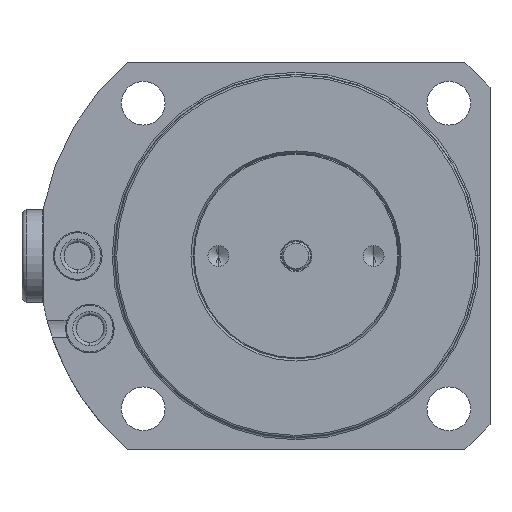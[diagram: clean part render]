
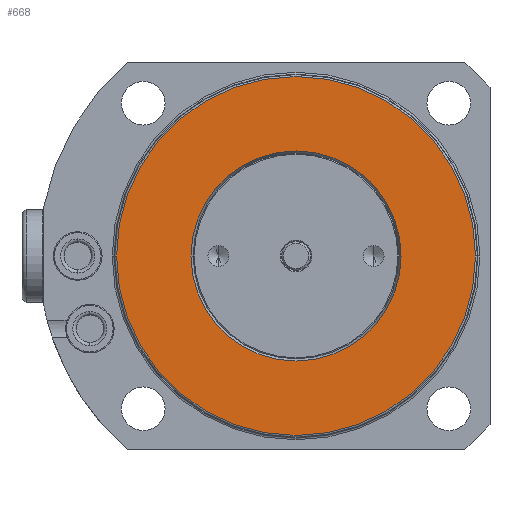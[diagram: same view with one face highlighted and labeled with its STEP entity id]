
A CAD part, front view. The second image highlights one B-rep face of the part: STEP entity #668.
In plain terms, the highlighted planar face has unit normal (0, -1, 0).
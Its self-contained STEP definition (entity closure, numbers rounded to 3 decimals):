
#345=PLANE('',#4007);
#409=FACE_BOUND('',#1174,.T.);
#410=FACE_BOUND('',#1175,.T.);
#668=ADVANCED_FACE('',(#409,#410),#345,.T.);
#1174=EDGE_LOOP('',(#2089,#2090));
#1175=EDGE_LOOP('',(#2091,#2092));
#2089=ORIENTED_EDGE('',*,*,#3178,.T.);
#2090=ORIENTED_EDGE('',*,*,#3251,.T.);
#2091=ORIENTED_EDGE('',*,*,#3173,.F.);
#2092=ORIENTED_EDGE('',*,*,#3252,.F.);
#2812=VERTEX_POINT('',#6266);
#2813=VERTEX_POINT('',#6267);
#2816=VERTEX_POINT('',#6275);
#2817=VERTEX_POINT('',#6277);
#3173=EDGE_CURVE('',#2812,#2813,#3576,.T.);
#3178=EDGE_CURVE('',#2817,#2816,#3580,.T.);
#3251=EDGE_CURVE('',#2816,#2817,#3617,.T.);
#3252=EDGE_CURVE('',#2813,#2812,#3618,.T.);
#3576=CIRCLE('',#3941,37.);
#3580=CIRCLE('',#3946,21.662);
#3617=CIRCLE('',#4004,21.662);
#3618=CIRCLE('',#4006,37.);
#3941=AXIS2_PLACEMENT_3D('',#6265,#4731,#4732);
#3946=AXIS2_PLACEMENT_3D('',#6276,#4742,#4743);
#4004=AXIS2_PLACEMENT_3D('',#6467,#4883,#4884);
#4006=AXIS2_PLACEMENT_3D('',#6469,#4887,#4888);
#4007=AXIS2_PLACEMENT_3D('',#6470,#4889,#4890);
#4731=DIRECTION('',(0.,1.,0.));
#4732=DIRECTION('',(-1.,0.,0.));
#4742=DIRECTION('',(0.,1.,0.));
#4743=DIRECTION('',(-1.,0.,0.));
#4883=DIRECTION('',(0.,1.,0.));
#4884=DIRECTION('',(-1.,0.,0.));
#4887=DIRECTION('',(0.,1.,0.));
#4888=DIRECTION('',(-1.,0.,0.));
#4889=DIRECTION('',(0.,-1.,0.));
#4890=DIRECTION('',(-1.,0.,0.));
#6265=CARTESIAN_POINT('',(0.,3.999,0.));
#6266=CARTESIAN_POINT('',(-37.,3.999,0.));
#6267=CARTESIAN_POINT('',(37.,3.999,0.));
#6275=CARTESIAN_POINT('',(-21.662,3.999,0.));
#6276=CARTESIAN_POINT('',(0.,3.999,0.));
#6277=CARTESIAN_POINT('',(21.662,3.999,0.));
#6467=CARTESIAN_POINT('',(0.,3.999,0.));
#6469=CARTESIAN_POINT('',(0.,3.999,0.));
#6470=CARTESIAN_POINT('',(0.,3.999,0.));
